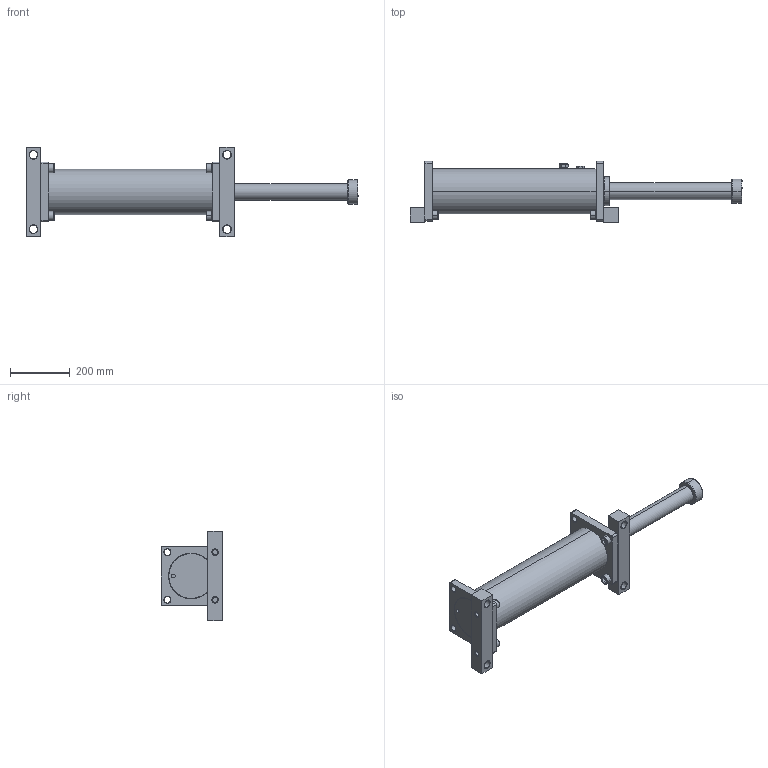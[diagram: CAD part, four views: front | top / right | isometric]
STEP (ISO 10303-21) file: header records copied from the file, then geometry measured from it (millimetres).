
FILE_DESCRIPTION (( 'STEP AP214' ), '1' );
FILE_NAME ('LDD3.5X16.STEP', '2019-01-16T08:14:33', ( 'user' ), ( 'Microsoft' ), 'SwSTEP 2.0', 'SolidWorks 2016', '' );
FILE_SCHEMA (( 'AUTOMOTIVE_DESIGN' ));
Length unit declared in the file: inch
Products named in the file (1): LDD3.5X16
Bounding box: 1114.4 x 205 x 300 mm (x, y, z)
Surface area: 741053.4 mm2 (no closed solid volume)
Topology: 0 solids, 22 shells, 272 faces, 733 edges, 492 vertices
Faces by surface type: cylinder 94, plane 93, cone 53, bspline 32
Entity records: 15468 total; most frequent: CARTESIAN_POINT 8655, DIRECTION 1441, ORIENTED_EDGE 1326, EDGE_CURVE 733, AXIS2_PLACEMENT_3D 567, VERTEX_POINT 492, EDGE_LOOP 331, CIRCLE 326
